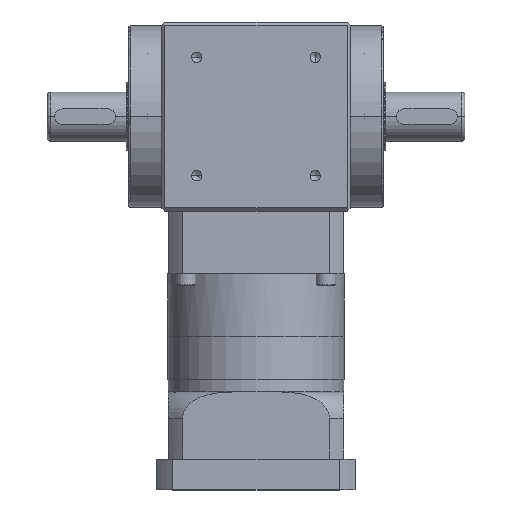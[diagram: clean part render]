
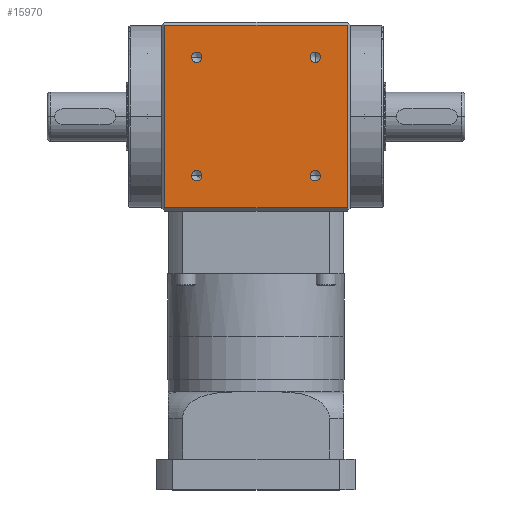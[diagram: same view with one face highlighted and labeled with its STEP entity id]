
A CAD part, top view. The second image highlights one B-rep face of the part: STEP entity #15970.
In plain terms, the highlighted planar face has unit normal (0, 0, 1).
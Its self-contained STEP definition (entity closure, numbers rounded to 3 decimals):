
#59 = ORIENTED_EDGE ( 'NONE', *, *, #307, .F. ) ;
#214 = ORIENTED_EDGE ( 'NONE', *, *, #16631, .F. ) ;
#307 = EDGE_CURVE ( 'NONE', #9784, #3607, #11062, .T. ) ;
#419 = VECTOR ( 'NONE', #19292, 1000. ) ;
#561 = EDGE_LOOP ( 'NONE', ( #16569, #22585 ) ) ;
#986 = CARTESIAN_POINT ( 'NONE',  ( -38.891, 157.409, 62. ) ) ;
#1416 = VERTEX_POINT ( 'NONE', #15403 ) ;
#1419 = AXIS2_PLACEMENT_3D ( 'NONE', #24502, #10641, #26801 ) ;
#1707 = CIRCLE ( 'NONE', #2129, 3.4 ) ;
#1807 = DIRECTION ( 'NONE',  ( 0., -1., 0. ) ) ;
#1814 = EDGE_CURVE ( 'NONE', #26096, #10411, #13534, .T. ) ;
#1959 = CARTESIAN_POINT ( 'NONE',  ( 38.891, 235.191, 62. ) ) ;
#2129 = AXIS2_PLACEMENT_3D ( 'NONE', #11914, #28062, #14199 ) ;
#2199 = DIRECTION ( 'NONE',  ( 0., -1., 0. ) ) ;
#2433 = EDGE_CURVE ( 'NONE', #15242, #1416, #5516, .T. ) ;
#3070 = CIRCLE ( 'NONE', #26491, 3.4 ) ;
#3073 = AXIS2_PLACEMENT_3D ( 'NONE', #986, #17287, #3289 ) ;
#3168 = VECTOR ( 'NONE', #30020, 1000. ) ;
#3289 = DIRECTION ( 'NONE',  ( 0., -1., 0. ) ) ;
#3506 = CIRCLE ( 'NONE', #7937, 3.4 ) ;
#3607 = VERTEX_POINT ( 'NONE', #16315 ) ;
#4303 = DIRECTION ( 'NONE',  ( 0., -1., 0. ) ) ;
#4383 = CARTESIAN_POINT ( 'NONE',  ( -38.891, 235.191, 62. ) ) ;
#4387 = CARTESIAN_POINT ( 'NONE',  ( 38.891, 160.809, 62. ) ) ;
#4488 = VERTEX_POINT ( 'NONE', #4387 ) ;
#4739 = AXIS2_PLACEMENT_3D ( 'NONE', #22656, #8797, #24979 ) ;
#5237 = EDGE_CURVE ( 'NONE', #10411, #9784, #11632, .T. ) ;
#5516 = CIRCLE ( 'NONE', #1419, 3.4 ) ;
#5746 = AXIS2_PLACEMENT_3D ( 'NONE', #4383, #20638, #6787 ) ;
#6428 = EDGE_LOOP ( 'NONE', ( #214, #23593 ) ) ;
#6765 = FACE_OUTER_BOUND ( 'NONE', #11447, .T. ) ;
#6787 = DIRECTION ( 'NONE',  ( 0., -1., 0. ) ) ;
#6917 = CARTESIAN_POINT ( 'NONE',  ( 59.887, 0., 62. ) ) ;
#7513 = AXIS2_PLACEMENT_3D ( 'NONE', #13864, #30084, #16242 ) ;
#7573 = VERTEX_POINT ( 'NONE', #29081 ) ;
#7796 = ORIENTED_EDGE ( 'NONE', *, *, #1814, .F. ) ;
#7937 = AXIS2_PLACEMENT_3D ( 'NONE', #29664, #15792, #1807 ) ;
#8797 = DIRECTION ( 'NONE',  ( 0., 0., 1. ) ) ;
#8936 = EDGE_CURVE ( 'NONE', #4488, #27696, #15903, .T. ) ;
#8952 = EDGE_CURVE ( 'NONE', #7573, #25191, #3506, .T. ) ;
#9784 = VERTEX_POINT ( 'NONE', #25828 ) ;
#10411 = VERTEX_POINT ( 'NONE', #15230 ) ;
#10418 = VERTEX_POINT ( 'NONE', #26737 ) ;
#10641 = DIRECTION ( 'NONE',  ( 0., 0., 1. ) ) ;
#11062 = LINE ( 'NONE', #24783, #22634 ) ;
#11136 = CIRCLE ( 'NONE', #17262, 3.4 ) ;
#11447 = EDGE_LOOP ( 'NONE', ( #16937, #59, #26326, #7796 ) ) ;
#11632 = LINE ( 'NONE', #12647, #23937 ) ;
#11914 = CARTESIAN_POINT ( 'NONE',  ( -38.891, 157.409, 62. ) ) ;
#12335 = ORIENTED_EDGE ( 'NONE', *, *, #14926, .F. ) ;
#12647 = CARTESIAN_POINT ( 'NONE',  ( -59.887, 0., 62. ) ) ;
#12963 = FACE_BOUND ( 'NONE', #20819, .T. ) ;
#12993 = ORIENTED_EDGE ( 'NONE', *, *, #8952, .F. ) ;
#13534 = LINE ( 'NONE', #18994, #419 ) ;
#13647 = FACE_BOUND ( 'NONE', #6428, .T. ) ;
#13864 = CARTESIAN_POINT ( 'NONE',  ( -75., 258.3, 62. ) ) ;
#14052 = CARTESIAN_POINT ( 'NONE',  ( 59.887, 136.3, 62. ) ) ;
#14199 = DIRECTION ( 'NONE',  ( 0., -1., 0. ) ) ;
#14482 = EDGE_CURVE ( 'NONE', #3607, #26096, #15579, .T. ) ;
#14570 = EDGE_CURVE ( 'NONE', #15210, #10418, #1707, .T. ) ;
#14635 = CARTESIAN_POINT ( 'NONE',  ( -38.891, 238.591, 62. ) ) ;
#14926 = EDGE_CURVE ( 'NONE', #25191, #7573, #18081, .T. ) ;
#15210 = VERTEX_POINT ( 'NONE', #19523 ) ;
#15230 = CARTESIAN_POINT ( 'NONE',  ( -59.887, 136.3, 62. ) ) ;
#15242 = VERTEX_POINT ( 'NONE', #20479 ) ;
#15403 = CARTESIAN_POINT ( 'NONE',  ( 38.891, 238.591, 62. ) ) ;
#15579 = LINE ( 'NONE', #6917, #3168 ) ;
#15792 = DIRECTION ( 'NONE',  ( 0., 0., 1. ) ) ;
#15903 = CIRCLE ( 'NONE', #4739, 3.4 ) ;
#15970 = ADVANCED_FACE ( 'NONE', ( #12963, #25960, #13647, #19104, #6765 ), #25302, .F. ) ;
#16200 = DIRECTION ( 'NONE',  ( 0., 0., 1. ) ) ;
#16242 = DIRECTION ( 'NONE',  ( 0., 1., 0. ) ) ;
#16315 = CARTESIAN_POINT ( 'NONE',  ( 59.887, 256.3, 62. ) ) ;
#16569 = ORIENTED_EDGE ( 'NONE', *, *, #20015, .F. ) ;
#16631 = EDGE_CURVE ( 'NONE', #27696, #4488, #3070, .T. ) ;
#16937 = ORIENTED_EDGE ( 'NONE', *, *, #14482, .F. ) ;
#16944 = ORIENTED_EDGE ( 'NONE', *, *, #25574, .F. ) ;
#17262 = AXIS2_PLACEMENT_3D ( 'NONE', #1959, #18242, #4303 ) ;
#17287 = DIRECTION ( 'NONE',  ( 0., 0., 1. ) ) ;
#18081 = CIRCLE ( 'NONE', #5746, 3.4 ) ;
#18242 = DIRECTION ( 'NONE',  ( 0., 0., 1. ) ) ;
#18994 = CARTESIAN_POINT ( 'NONE',  ( -75., 136.3, 62. ) ) ;
#19104 = FACE_BOUND ( 'NONE', #561, .T. ) ;
#19292 = DIRECTION ( 'NONE',  ( -1., 0., 0. ) ) ;
#19523 = CARTESIAN_POINT ( 'NONE',  ( -38.891, 160.809, 62. ) ) ;
#20015 = EDGE_CURVE ( 'NONE', #10418, #15210, #27992, .T. ) ;
#20479 = CARTESIAN_POINT ( 'NONE',  ( 38.891, 231.791, 62. ) ) ;
#20638 = DIRECTION ( 'NONE',  ( 0., 0., 1. ) ) ;
#20819 = EDGE_LOOP ( 'NONE', ( #12993, #12335 ) ) ;
#22585 = ORIENTED_EDGE ( 'NONE', *, *, #14570, .F. ) ;
#22634 = VECTOR ( 'NONE', #25604, 1000. ) ;
#22656 = CARTESIAN_POINT ( 'NONE',  ( 38.891, 157.409, 62. ) ) ;
#23593 = ORIENTED_EDGE ( 'NONE', *, *, #8936, .F. ) ;
#23901 = CARTESIAN_POINT ( 'NONE',  ( 38.891, 154.009, 62. ) ) ;
#23937 = VECTOR ( 'NONE', #28821, 1000. ) ;
#24502 = CARTESIAN_POINT ( 'NONE',  ( 38.891, 235.191, 62. ) ) ;
#24783 = CARTESIAN_POINT ( 'NONE',  ( -75., 256.3, 62. ) ) ;
#24979 = DIRECTION ( 'NONE',  ( 0., -1., 0. ) ) ;
#25191 = VERTEX_POINT ( 'NONE', #14635 ) ;
#25302 = PLANE ( 'NONE',  #7513 ) ;
#25574 = EDGE_CURVE ( 'NONE', #1416, #15242, #11136, .T. ) ;
#25604 = DIRECTION ( 'NONE',  ( 1., 0., 0. ) ) ;
#25828 = CARTESIAN_POINT ( 'NONE',  ( -59.887, 256.3, 62. ) ) ;
#25960 = FACE_BOUND ( 'NONE', #26350, .T. ) ;
#26096 = VERTEX_POINT ( 'NONE', #14052 ) ;
#26326 = ORIENTED_EDGE ( 'NONE', *, *, #5237, .F. ) ;
#26350 = EDGE_LOOP ( 'NONE', ( #28319, #16944 ) ) ;
#26491 = AXIS2_PLACEMENT_3D ( 'NONE', #30054, #16200, #2199 ) ;
#26737 = CARTESIAN_POINT ( 'NONE',  ( -38.891, 154.009, 62. ) ) ;
#26801 = DIRECTION ( 'NONE',  ( 0., -1., 0. ) ) ;
#27696 = VERTEX_POINT ( 'NONE', #23901 ) ;
#27992 = CIRCLE ( 'NONE', #3073, 3.4 ) ;
#28062 = DIRECTION ( 'NONE',  ( 0., 0., 1. ) ) ;
#28319 = ORIENTED_EDGE ( 'NONE', *, *, #2433, .F. ) ;
#28821 = DIRECTION ( 'NONE',  ( 0., 1., 0. ) ) ;
#29081 = CARTESIAN_POINT ( 'NONE',  ( -38.891, 231.791, 62. ) ) ;
#29664 = CARTESIAN_POINT ( 'NONE',  ( -38.891, 235.191, 62. ) ) ;
#30020 = DIRECTION ( 'NONE',  ( 0., -1., 0. ) ) ;
#30054 = CARTESIAN_POINT ( 'NONE',  ( 38.891, 157.409, 62. ) ) ;
#30084 = DIRECTION ( 'NONE',  ( 0., 0., -1. ) ) ;
